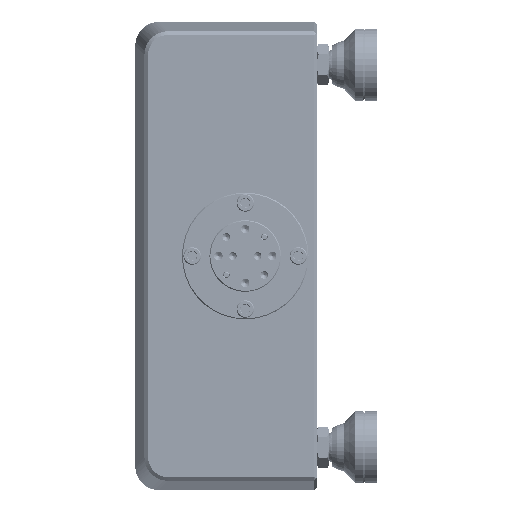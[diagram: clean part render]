
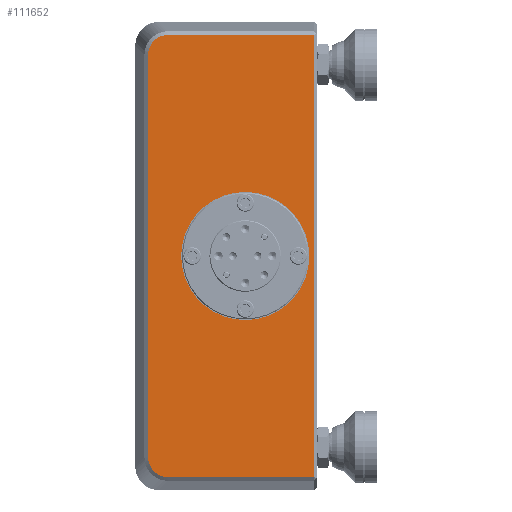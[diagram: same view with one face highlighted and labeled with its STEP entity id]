
A CAD part, left-side view. The second image highlights one B-rep face of the part: STEP entity #111652.
In plain terms, the highlighted planar face has unit normal (-1, 0, 0).
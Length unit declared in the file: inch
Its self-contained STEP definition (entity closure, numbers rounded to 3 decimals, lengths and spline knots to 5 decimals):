
#7109 = VERTEX_POINT ( 'NONE', #93590 ) ;
#16336 = LINE ( 'NONE', #190180, #47554 ) ;
#16870 = B_SPLINE_CURVE_WITH_KNOTS ( 'NONE', 3,
 ( #178099, #192727, #62952, #23268, #81951, #25447, #46240, #29478, #183291, #80851 ),
 .UNSPECIFIED., .F., .F.,
 ( 4, 2, 2, 2, 4 ),
 ( 0., 0.25, 0.5, 0.75, 1. ),
 .UNSPECIFIED. ) ;
#19837 = CARTESIAN_POINT ( 'NONE',  ( -2.75, -0.66628, -2.13089 ) ) ;
#23268 = CARTESIAN_POINT ( 'NONE',  ( -2.75, -0.76974, 2.28609 ) ) ;
#24282 = CARTESIAN_POINT ( 'NONE',  ( -2.75, -1.68136, 0.67 ) ) ;
#24766 = CARTESIAN_POINT ( 'NONE',  ( -2.75, -1.48136, 2.31232 ) ) ;
#25447 = CARTESIAN_POINT ( 'NONE',  ( -2.75, -0.708, 2.2321 ) ) ;
#25593 = DIRECTION ( 'NONE',  ( 0., 0., -1. ) ) ;
#25703 = VECTOR ( 'NONE', #162636, 39.37008 ) ;
#26468 = VERTEX_POINT ( 'NONE', #148087 ) ;
#28221 = ORIENTED_EDGE ( 'NONE', *, *, #46091, .T. ) ;
#29478 = CARTESIAN_POINT ( 'NONE',  ( -2.75, -0.67171, 2.15839 ) ) ;
#35660 = EDGE_CURVE ( 'NONE', #196795, #119336, #106232, .T. ) ;
#37653 = CARTESIAN_POINT ( 'NONE',  ( -2.75, -0.7465, -2.27061 ) ) ;
#41296 = CARTESIAN_POINT ( 'NONE',  ( -2.75, -1.48136, -2.31232 ) ) ;
#42469 = CIRCLE ( 'NONE', #60180, 0.67 ) ;
#42776 = EDGE_CURVE ( 'NONE', #26468, #151348, #123793, .T. ) ;
#44055 = EDGE_CURVE ( 'NONE', #151348, #71885, #16336, .T. ) ;
#46091 = EDGE_CURVE ( 'NONE', #173843, #7109, #93167, .T. ) ;
#46240 = CARTESIAN_POINT ( 'NONE',  ( -2.75, -0.69252, 2.20886 ) ) ;
#47554 = VECTOR ( 'NONE', #88740, 39.37008 ) ;
#48244 = ORIENTED_EDGE ( 'NONE', *, *, #217457, .F. ) ;
#55377 = EDGE_LOOP ( 'NONE', ( #48244, #174668 ) ) ;
#57860 = FACE_BOUND ( 'NONE', #55377, .T. ) ;
#60180 = AXIS2_PLACEMENT_3D ( 'NONE', #147248, #217418, #64643 ) ;
#62952 = CARTESIAN_POINT ( 'NONE',  ( -2.75, -0.82022, 2.30689 ) ) ;
#64643 = DIRECTION ( 'NONE',  ( 0., 0., 1. ) ) ;
#71070 = CARTESIAN_POINT ( 'NONE',  ( -2.75, -0.66628, -2.1034 ) ) ;
#71885 = VERTEX_POINT ( 'NONE', #146117 ) ;
#75990 = ORIENTED_EDGE ( 'NONE', *, *, #42776, .T. ) ;
#77979 = CARTESIAN_POINT ( 'NONE',  ( -2.75, -1.48136, 0. ) ) ;
#80851 = CARTESIAN_POINT ( 'NONE',  ( -2.75, -0.66628, 2.1034 ) ) ;
#81951 = CARTESIAN_POINT ( 'NONE',  ( -2.75, -0.74651, 2.2706 ) ) ;
#82702 = EDGE_CURVE ( 'NONE', #167815, #173843, #16870, .T. ) ;
#84971 = CARTESIAN_POINT ( 'NONE',  ( -2.75, -0.66628, 2.1034 ) ) ;
#88740 = DIRECTION ( 'NONE',  ( 0., 0., 1. ) ) ;
#91674 = DIRECTION ( 'NONE',  ( 0., 1., 0. ) ) ;
#93167 = LINE ( 'NONE', #197976, #96262 ) ;
#93590 = CARTESIAN_POINT ( 'NONE',  ( -2.75, -0.66628, -2.1034 ) ) ;
#96262 = VECTOR ( 'NONE', #145562, 39.37008 ) ;
#103487 = EDGE_CURVE ( 'NONE', #71885, #167815, #175219, .T. ) ;
#106232 = CIRCLE ( 'NONE', #145433, 0.67 ) ;
#106716 = CARTESIAN_POINT ( 'NONE',  ( -2.75, -0.82021, -2.30689 ) ) ;
#107458 = ORIENTED_EDGE ( 'NONE', *, *, #44055, .T. ) ;
#111652 = ADVANCED_FACE ( 'NONE', ( #161496, #57860 ), #127009, .F. ) ;
#119070 = CARTESIAN_POINT ( 'NONE',  ( -2.75, -1.68136, -0.67 ) ) ;
#119336 = VERTEX_POINT ( 'NONE', #24282 ) ;
#120057 = DIRECTION ( 'NONE',  ( 0., 0., 1. ) ) ;
#122365 = CARTESIAN_POINT ( 'NONE',  ( -2.75, -0.70801, -2.2321 ) ) ;
#123793 = LINE ( 'NONE', #41296, #25703 ) ;
#127009 = PLANE ( 'NONE',  #219879 ) ;
#132798 = VECTOR ( 'NONE', #91674, 39.37008 ) ;
#134589 = DIRECTION ( 'NONE',  ( -1., 0., 0. ) ) ;
#134639 = ORIENTED_EDGE ( 'NONE', *, *, #82702, .T. ) ;
#134747 = CARTESIAN_POINT ( 'NONE',  ( -2.75, -0.8752, 2.31232 ) ) ;
#145433 = AXIS2_PLACEMENT_3D ( 'NONE', #188032, #134589, #120057 ) ;
#145562 = DIRECTION ( 'NONE',  ( 0., 0., -1. ) ) ;
#146117 = CARTESIAN_POINT ( 'NONE',  ( -2.75, -2.40136, 2.31232 ) ) ;
#147248 = CARTESIAN_POINT ( 'NONE',  ( -2.75, -1.68136, 0. ) ) ;
#148087 = CARTESIAN_POINT ( 'NONE',  ( -2.75, -0.8752, -2.31232 ) ) ;
#151348 = VERTEX_POINT ( 'NONE', #219293 ) ;
#159290 = ORIENTED_EDGE ( 'NONE', *, *, #103487, .T. ) ;
#161496 = FACE_OUTER_BOUND ( 'NONE', #178179, .T. ) ;
#162636 = DIRECTION ( 'NONE',  ( 0., -1., 0. ) ) ;
#167815 = VERTEX_POINT ( 'NONE', #134747 ) ;
#173843 = VERTEX_POINT ( 'NONE', #84971 ) ;
#174668 = ORIENTED_EDGE ( 'NONE', *, *, #35660, .F. ) ;
#174678 = CARTESIAN_POINT ( 'NONE',  ( -2.75, -0.69251, -2.20886 ) ) ;
#175219 = LINE ( 'NONE', #24766, #132798 ) ;
#175577 = EDGE_CURVE ( 'NONE', #7109, #26468, #188186, .T. ) ;
#178099 = CARTESIAN_POINT ( 'NONE',  ( -2.75, -0.8752, 2.31232 ) ) ;
#178179 = EDGE_LOOP ( 'NONE', ( #196390, #75990, #107458, #159290, #134639, #28221 ) ) ;
#183291 = CARTESIAN_POINT ( 'NONE',  ( -2.75, -0.66628, 2.13095 ) ) ;
#188032 = CARTESIAN_POINT ( 'NONE',  ( -2.75, -1.68136, 0. ) ) ;
#188186 = B_SPLINE_CURVE_WITH_KNOTS ( 'NONE', 3,
 ( #71070, #19837, #192606, #174678, #122365, #37653, #190369, #106716, #191493, #193730 ),
 .UNSPECIFIED., .F., .F.,
 ( 4, 2, 2, 2, 4 ),
 ( 0., 0.25, 0.5, 0.75, 1. ),
 .UNSPECIFIED. ) ;
#190180 = CARTESIAN_POINT ( 'NONE',  ( -2.75, -2.40136, 0. ) ) ;
#190369 = CARTESIAN_POINT ( 'NONE',  ( -2.75, -0.76974, -2.28609 ) ) ;
#191493 = CARTESIAN_POINT ( 'NONE',  ( -2.75, -0.84766, -2.31233 ) ) ;
#192606 = CARTESIAN_POINT ( 'NONE',  ( -2.75, -0.67172, -2.15839 ) ) ;
#192727 = CARTESIAN_POINT ( 'NONE',  ( -2.75, -0.84772, 2.31233 ) ) ;
#193730 = CARTESIAN_POINT ( 'NONE',  ( -2.75, -0.8752, -2.31232 ) ) ;
#196390 = ORIENTED_EDGE ( 'NONE', *, *, #175577, .T. ) ;
#196795 = VERTEX_POINT ( 'NONE', #119070 ) ;
#197976 = CARTESIAN_POINT ( 'NONE',  ( -2.75, -0.66628, 0. ) ) ;
#213974 = DIRECTION ( 'NONE',  ( 1., 0., 0. ) ) ;
#217418 = DIRECTION ( 'NONE',  ( -1., 0., 0. ) ) ;
#217457 = EDGE_CURVE ( 'NONE', #119336, #196795, #42469, .T. ) ;
#219293 = CARTESIAN_POINT ( 'NONE',  ( -2.75, -2.40136, -2.31232 ) ) ;
#219879 = AXIS2_PLACEMENT_3D ( 'NONE', #77979, #213974, #25593 ) ;
